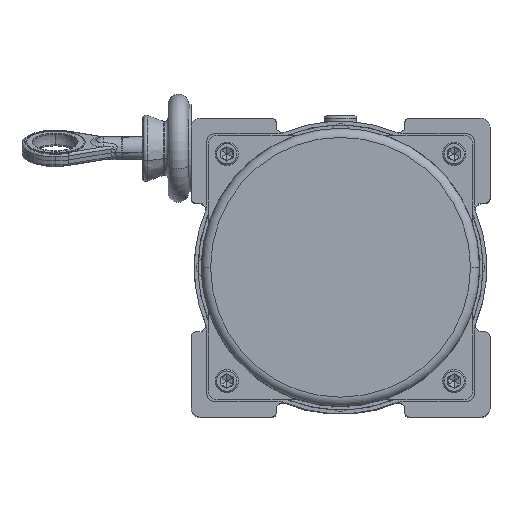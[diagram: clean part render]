
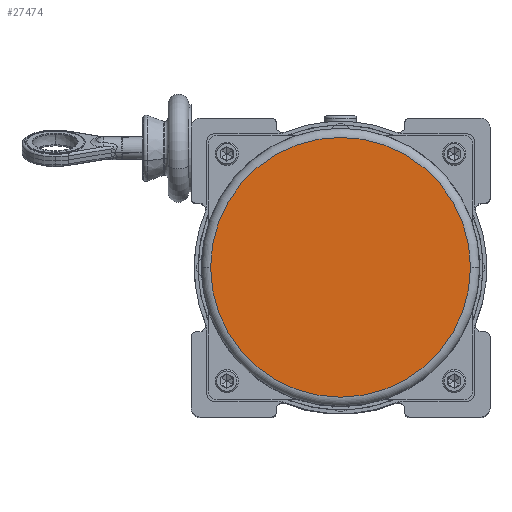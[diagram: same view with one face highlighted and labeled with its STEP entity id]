
A CAD part, top view. The second image highlights one B-rep face of the part: STEP entity #27474.
In plain terms, the highlighted planar face has unit normal (0, 0, 1).
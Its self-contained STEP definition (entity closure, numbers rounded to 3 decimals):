
#155 = DIRECTION ( 'NONE',  ( 1., 0., 0. ) ) ;
#945 = AXIS2_PLACEMENT_3D ( 'NONE', #20991, #38388, #155 ) ;
#4617 = AXIS2_PLACEMENT_3D ( 'NONE', #40605, #61840, #14179 ) ;
#6059 = FACE_OUTER_BOUND ( 'NONE', #26601, .T. ) ;
#12484 = CARTESIAN_POINT ( 'NONE',  ( 140., 0., 518.65 ) ) ;
#13503 = CIRCLE ( 'NONE', #4617, 56.5 ) ;
#14179 = DIRECTION ( 'NONE',  ( 1., 0., 0. ) ) ;
#20991 = CARTESIAN_POINT ( 'NONE',  ( 140., 0., 518.65 ) ) ;
#23828 = ORIENTED_EDGE ( 'NONE', *, *, #44662, .T. ) ;
#26601 = EDGE_LOOP ( 'NONE', ( #23828, #34583 ) ) ;
#27474 = ADVANCED_FACE ( 'NONE', ( #6059 ), #64519, .T. ) ;
#31981 = CARTESIAN_POINT ( 'NONE',  ( 83.5, 0., 518.65 ) ) ;
#32037 = AXIS2_PLACEMENT_3D ( 'NONE', #12484, #49362, #50724 ) ;
#34583 = ORIENTED_EDGE ( 'NONE', *, *, #61784, .T. ) ;
#38388 = DIRECTION ( 'NONE',  ( 0., 0., 1. ) ) ;
#39860 = VERTEX_POINT ( 'NONE', #68702 ) ;
#40122 = VERTEX_POINT ( 'NONE', #31981 ) ;
#40605 = CARTESIAN_POINT ( 'NONE',  ( 140., 0., 518.65 ) ) ;
#44662 = EDGE_CURVE ( 'NONE', #39860, #40122, #13503, .T. ) ;
#49362 = DIRECTION ( 'NONE',  ( 0., 0., 1. ) ) ;
#50724 = DIRECTION ( 'NONE',  ( 1., 0., 0. ) ) ;
#57571 = CIRCLE ( 'NONE', #32037, 56.5 ) ;
#61784 = EDGE_CURVE ( 'NONE', #40122, #39860, #57571, .T. ) ;
#61840 = DIRECTION ( 'NONE',  ( 0., 0., 1. ) ) ;
#64519 = PLANE ( 'NONE',  #945 ) ;
#68702 = CARTESIAN_POINT ( 'NONE',  ( 196.5, 0., 518.65 ) ) ;
